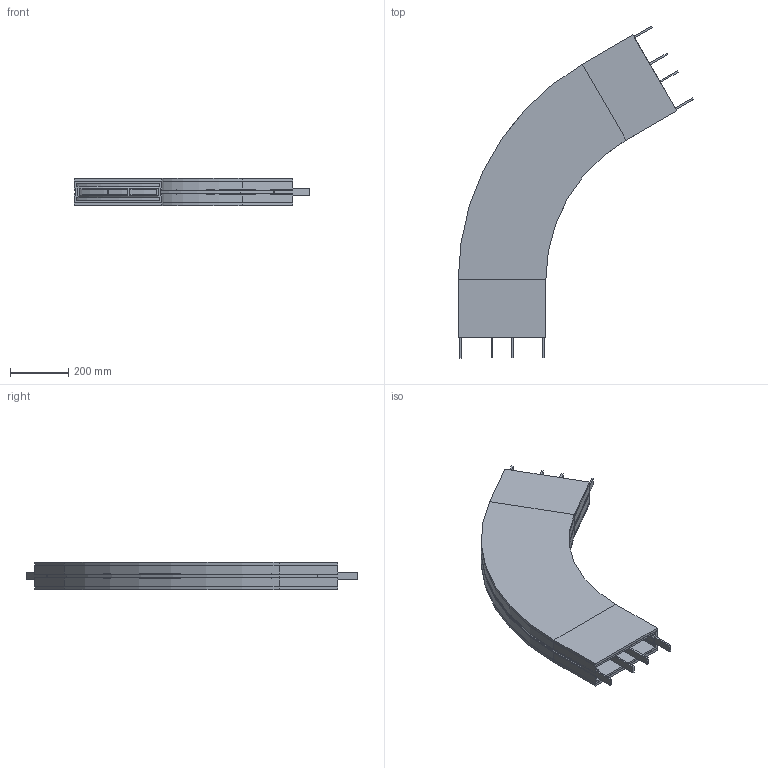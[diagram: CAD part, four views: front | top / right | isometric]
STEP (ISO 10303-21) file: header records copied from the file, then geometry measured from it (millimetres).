
FILE_DESCRIPTION (( 'STEP AP214' ), '1' );
FILE_NAME ('FBBP 60A300R700L200L200.00.step', '2026-05-29T10:20:38', ( '' ), ( '' ), 'SwSTEP 2.0', 'SolidWorks 2024', '' );
FILE_SCHEMA (( 'AUTOMOTIVE_DESIGN' ));
Length unit declared in the file: millimetre
Products named in the file (1): FBBP 60A300R700L200L200.00
Bounding box: 806.4 x 1136.92 x 93 mm (x, y, z)
Volume: 12403347.9 mm3; surface area: 3242011.6 mm2
Topology: 11 solids, 11 shells, 375 faces, 845 edges, 492 vertices
Faces by surface type: plane 274, cone 66, cylinder 30, torus 5
Entity records: 10191 total; most frequent: DIRECTION 1724, CARTESIAN_POINT 1713, ORIENTED_EDGE 1690, EDGE_CURVE 845, LINE 718, VECTOR 718, AXIS2_PLACEMENT_3D 503, VERTEX_POINT 492
